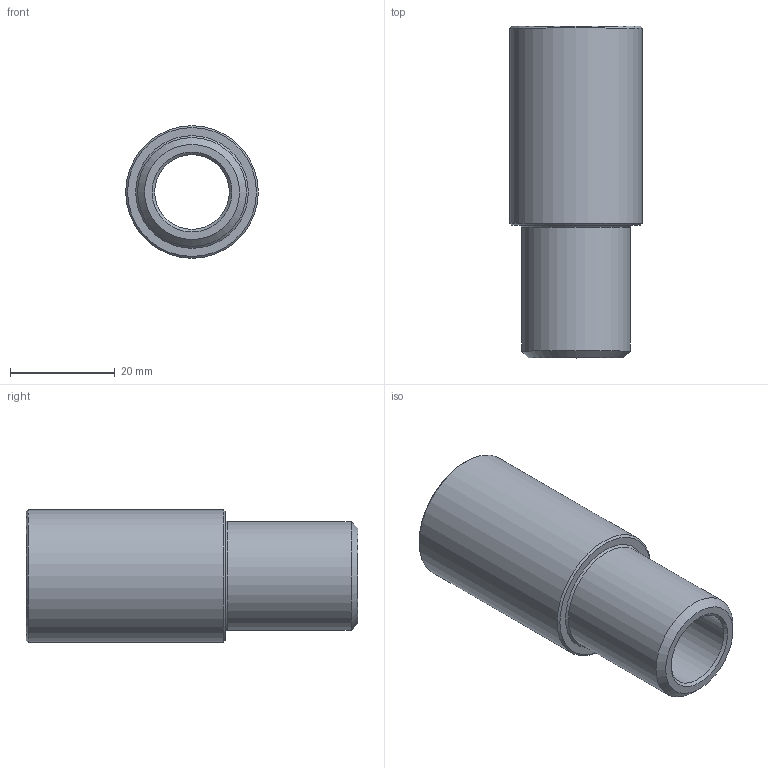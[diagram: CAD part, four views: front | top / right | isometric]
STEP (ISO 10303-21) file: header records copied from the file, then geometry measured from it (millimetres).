
FILE_DESCRIPTION(/* description */ (''),/* implementation_level */ '2;1');
FILE_NAME(/* name */ 'C:/Users/drich/Desktop/EP12X2-1_2 v1.step',/* time_stamp */ '2019-11-18T14:46:01-06:00',/* author */ (''),/* organization */ (''),/* preprocessor_version */ 'ST-DEVELOPER v18',/* originating_system */ 'Autodesk Translation Framework v8.12.0.6',/* authorisation */ '');
FILE_SCHEMA (('AUTOMOTIVE_DESIGN { 1 0 10303 214 3 1 1 }'));
Length unit declared in the file: inch
Products named in the file (2): EP12X2-1_2; EP12X2.5
Assembly tree (1 placements, depth 2):
  EP12X2-1_2
    EP12X2.5
Bounding box: 25.4 x 63.5 x 25.4 mm (x, y, z)
Volume: 15002.8 mm3; surface area: 8514.8 mm2
Topology: 1 solids, 1 shells, 23 faces, 55 edges, 37 vertices
Faces by surface type: plane 11, cone 7, cylinder 5
Full cylindrical faces by diameter (mm): 14.275 x1, 17.145 x1, 18.901 x1, 20.813 x1, 25.4 x1
Entity records: 740 total; most frequent: CARTESIAN_POINT 132, DIRECTION 124, ORIENTED_EDGE 110, EDGE_CURVE 55, AXIS2_PLACEMENT_3D 50, VERTEX_POINT 37, EDGE_LOOP 28, LINE 24
